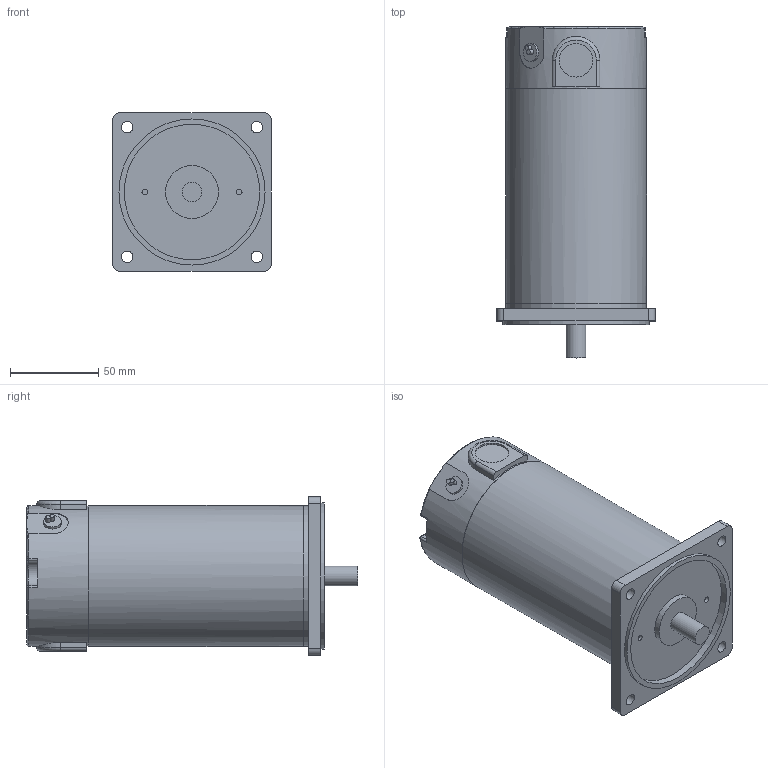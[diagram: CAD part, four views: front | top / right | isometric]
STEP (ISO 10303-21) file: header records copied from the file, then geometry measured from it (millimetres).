
FILE_DESCRIPTION((''),'2;1');
FILE_NAME('E:\2공장-도면\3D\표준형 3D(민규)\step file\DC모터\K9DP200N3.stp','2014-11-24T17:20:49',('AHN'),(''),'Autodesk Inventor 2012','Autodesk Inventor 2012','');
FILE_SCHEMA(('CONFIG_CONTROL_DESIGN'));
Length unit declared in the file: millimetre
Products named in the file (1): K9DP200N3
Bounding box: 90 x 188.5 x 90 mm (x, y, z)
Volume: 858694.8 mm3; surface area: 63141.4 mm2
Topology: 1 solids, 1 shells, 127 faces, 286 edges, 182 vertices
Faces by surface type: plane 61, cylinder 55, torus 7, sphere 4
Full cylindrical faces by diameter (mm): 2.6 x2, 3.4 x2, 6.5 x4, 10 x1, 11.3 x1, 19 x2, 30 x2, 77 x1, 80 x2, 80.1 x1, 83 x1
Entity records: 3570 total; most frequent: CARTESIAN_POINT 669, DIRECTION 640, ORIENTED_EDGE 530, EDGE_CURVE 265, AXIS2_PLACEMENT_3D 252, VERTEX_POINT 179, EDGE_LOOP 175, VECTOR 136
